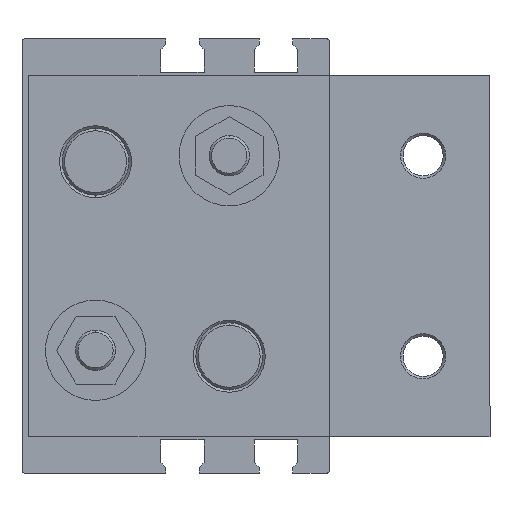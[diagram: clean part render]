
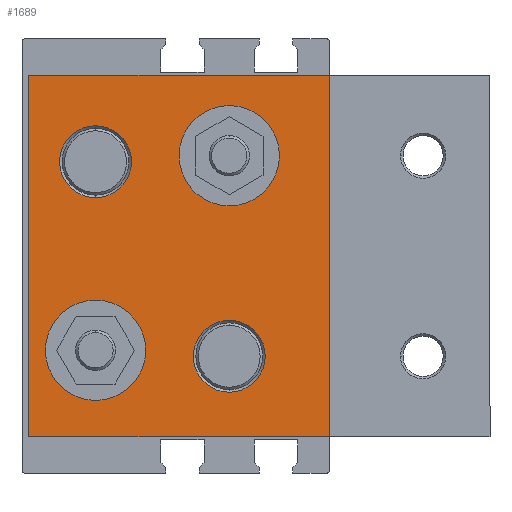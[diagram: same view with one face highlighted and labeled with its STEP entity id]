
A CAD part, left-side view. The second image highlights one B-rep face of the part: STEP entity #1689.
In plain terms, the highlighted planar face has unit normal (-1, 0, 0) as drawn and (1, 0, 0) by its records, which use the part's own axes.
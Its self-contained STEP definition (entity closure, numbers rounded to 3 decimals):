
#1 = CARTESIAN_POINT ( 'NONE',  ( 17., -2.5, 14.1 ) ) ;
#21 = CARTESIAN_POINT ( 'NONE',  ( 17., -10., -14.1 ) ) ;
#46 = PLANE ( 'NONE',  #3894 ) ;
#69 = VERTEX_POINT ( 'NONE', #565 ) ;
#75 = FACE_BOUND ( 'NONE', #4882, .T. ) ;
#243 = EDGE_CURVE ( 'NONE', #2447, #5246, #5983, .T. ) ;
#253 = FACE_BOUND ( 'NONE', #1438, .T. ) ;
#283 = AXIS2_PLACEMENT_3D ( 'NONE', #3981, #393, #4587 ) ;
#393 = DIRECTION ( 'NONE',  ( 1., 0., 0. ) ) ;
#485 = DIRECTION ( 'NONE',  ( 0., -1., 0. ) ) ;
#491 = DIRECTION ( 'NONE',  ( 1., 0., 0. ) ) ;
#565 = CARTESIAN_POINT ( 'NONE',  ( 17., -30., 20.375 ) ) ;
#568 = EDGE_CURVE ( 'NONE', #69, #5996, #5105, .T. ) ;
#600 = CARTESIAN_POINT ( 'NONE',  ( 17., 0., 27. ) ) ;
#631 = CIRCLE ( 'NONE', #7531, 7.5 ) ;
#638 = DIRECTION ( 'NONE',  ( 0., 0., -1. ) ) ;
#749 = CIRCLE ( 'NONE', #1897, 5.375 ) ;
#888 = CARTESIAN_POINT ( 'NONE',  ( 17., -17.5, 14.1 ) ) ;
#1332 = CARTESIAN_POINT ( 'NONE',  ( 17., -10., -8.725 ) ) ;
#1359 = ORIENTED_EDGE ( 'NONE', *, *, #3434, .F. ) ;
#1365 = ORIENTED_EDGE ( 'NONE', *, *, #7253, .T. ) ;
#1401 = CIRCLE ( 'NONE', #4505, 7.5 ) ;
#1438 = EDGE_LOOP ( 'NONE', ( #3140, #6264 ) ) ;
#1493 = FACE_BOUND ( 'NONE', #5262, .T. ) ;
#1524 = CARTESIAN_POINT ( 'NONE',  ( 17., -10., 14.1 ) ) ;
#1528 = EDGE_CURVE ( 'NONE', #5089, #5183, #3310, .T. ) ;
#1552 = CARTESIAN_POINT ( 'NONE',  ( 17., -30., 15. ) ) ;
#1627 = VERTEX_POINT ( 'NONE', #6791 ) ;
#1683 = CIRCLE ( 'NONE', #7827, 5.375 ) ;
#1689 = ADVANCED_FACE ( 'NONE', ( #1882, #253, #75, #3070, #1493 ), #46, .F. ) ;
#1752 = CARTESIAN_POINT ( 'NONE',  ( 17., -22.5, -15. ) ) ;
#1770 = ORIENTED_EDGE ( 'NONE', *, *, #2045, .F. ) ;
#1774 = CARTESIAN_POINT ( 'NONE',  ( 17., -30., 9.625 ) ) ;
#1841 = CARTESIAN_POINT ( 'NONE',  ( 17., -30., -15. ) ) ;
#1842 = DIRECTION ( 'NONE',  ( 0., -1., 0. ) ) ;
#1882 = FACE_OUTER_BOUND ( 'NONE', #5768, .T. ) ;
#1897 = AXIS2_PLACEMENT_3D ( 'NONE', #1552, #5756, #2173 ) ;
#2045 = EDGE_CURVE ( 'NONE', #2447, #4626, #7055, .T. ) ;
#2129 = DIRECTION ( 'NONE',  ( 0., 1., 0. ) ) ;
#2135 = ORIENTED_EDGE ( 'NONE', *, *, #4489, .T. ) ;
#2173 = DIRECTION ( 'NONE',  ( 0., 0., -1. ) ) ;
#2360 = CARTESIAN_POINT ( 'NONE',  ( 17., -10., 14.1 ) ) ;
#2447 = VERTEX_POINT ( 'NONE', #5872 ) ;
#2448 = DIRECTION ( 'NONE',  ( 0., 1., 0. ) ) ;
#2450 = CARTESIAN_POINT ( 'NONE',  ( 17., -30., -15. ) ) ;
#2933 = DIRECTION ( 'NONE',  ( 0., 1., 0. ) ) ;
#2954 = VECTOR ( 'NONE', #6508, 1000. ) ;
#2999 = DIRECTION ( 'NONE',  ( 1., 0., 0. ) ) ;
#3063 = DIRECTION ( 'NONE',  ( 0., 0., 1. ) ) ;
#3070 = FACE_BOUND ( 'NONE', #3299, .T. ) ;
#3140 = ORIENTED_EDGE ( 'NONE', *, *, #6802, .F. ) ;
#3158 = CARTESIAN_POINT ( 'NONE',  ( 17., -45., -27. ) ) ;
#3245 = AXIS2_PLACEMENT_3D ( 'NONE', #2450, #2999, #5990 ) ;
#3299 = EDGE_LOOP ( 'NONE', ( #5241, #5431 ) ) ;
#3310 = CIRCLE ( 'NONE', #3245, 7.5 ) ;
#3434 = EDGE_CURVE ( 'NONE', #6156, #5800, #7849, .T. ) ;
#3442 = CARTESIAN_POINT ( 'NONE',  ( 17., -37.5, -15. ) ) ;
#3453 = VECTOR ( 'NONE', #1842, 1000. ) ;
#3484 = DIRECTION ( 'NONE',  ( 0., 0., -1. ) ) ;
#3894 = AXIS2_PLACEMENT_3D ( 'NONE', #5457, #6693, #3063 ) ;
#3914 = CARTESIAN_POINT ( 'NONE',  ( 17., -45., 27. ) ) ;
#3981 = CARTESIAN_POINT ( 'NONE',  ( 17., -10., -14.1 ) ) ;
#4080 = CARTESIAN_POINT ( 'NONE',  ( 17., -30., 15. ) ) ;
#4180 = EDGE_CURVE ( 'NONE', #5996, #69, #749, .T. ) ;
#4220 = DIRECTION ( 'NONE',  ( 1., 0., 0. ) ) ;
#4385 = CARTESIAN_POINT ( 'NONE',  ( 17., 0., 27. ) ) ;
#4489 = EDGE_CURVE ( 'NONE', #5246, #1627, #5043, .T. ) ;
#4505 = AXIS2_PLACEMENT_3D ( 'NONE', #1841, #6044, #2448 ) ;
#4509 = DIRECTION ( 'NONE',  ( 0., 0., -1. ) ) ;
#4548 = CARTESIAN_POINT ( 'NONE',  ( 17., -10., -19.475 ) ) ;
#4587 = DIRECTION ( 'NONE',  ( 0., 0., -1. ) ) ;
#4626 = VERTEX_POINT ( 'NONE', #3158 ) ;
#4635 = ORIENTED_EDGE ( 'NONE', *, *, #1528, .F. ) ;
#4669 = ORIENTED_EDGE ( 'NONE', *, *, #7581, .F. ) ;
#4855 = VERTEX_POINT ( 'NONE', #888 ) ;
#4882 = EDGE_LOOP ( 'NONE', ( #5526, #4635 ) ) ;
#5043 = LINE ( 'NONE', #6651, #3453 ) ;
#5089 = VERTEX_POINT ( 'NONE', #3442 ) ;
#5105 = CIRCLE ( 'NONE', #5427, 5.375 ) ;
#5181 = EDGE_CURVE ( 'NONE', #4855, #6475, #6032, .T. ) ;
#5183 = VERTEX_POINT ( 'NONE', #1752 ) ;
#5241 = ORIENTED_EDGE ( 'NONE', *, *, #4180, .F. ) ;
#5246 = VERTEX_POINT ( 'NONE', #600 ) ;
#5262 = EDGE_LOOP ( 'NONE', ( #4669, #1359 ) ) ;
#5427 = AXIS2_PLACEMENT_3D ( 'NONE', #4080, #491, #3484 ) ;
#5431 = ORIENTED_EDGE ( 'NONE', *, *, #568, .F. ) ;
#5457 = CARTESIAN_POINT ( 'NONE',  ( 17., -45., 27. ) ) ;
#5524 = VECTOR ( 'NONE', #4509, 1000. ) ;
#5526 = ORIENTED_EDGE ( 'NONE', *, *, #6946, .F. ) ;
#5716 = DIRECTION ( 'NONE',  ( 1., 0., 0. ) ) ;
#5756 = DIRECTION ( 'NONE',  ( 1., 0., 0. ) ) ;
#5768 = EDGE_LOOP ( 'NONE', ( #7823, #2135, #1365, #1770 ) ) ;
#5800 = VERTEX_POINT ( 'NONE', #4548 ) ;
#5872 = CARTESIAN_POINT ( 'NONE',  ( 17., 0., -27. ) ) ;
#5983 = LINE ( 'NONE', #4385, #2954 ) ;
#5990 = DIRECTION ( 'NONE',  ( 0., 1., 0. ) ) ;
#5996 = VERTEX_POINT ( 'NONE', #1774 ) ;
#6032 = CIRCLE ( 'NONE', #6271, 7.5 ) ;
#6044 = DIRECTION ( 'NONE',  ( 1., 0., 0. ) ) ;
#6156 = VERTEX_POINT ( 'NONE', #1332 ) ;
#6264 = ORIENTED_EDGE ( 'NONE', *, *, #5181, .F. ) ;
#6271 = AXIS2_PLACEMENT_3D ( 'NONE', #2360, #6566, #2933 ) ;
#6475 = VERTEX_POINT ( 'NONE', #1 ) ;
#6508 = DIRECTION ( 'NONE',  ( 0., 0., 1. ) ) ;
#6566 = DIRECTION ( 'NONE',  ( 1., 0., 0. ) ) ;
#6651 = CARTESIAN_POINT ( 'NONE',  ( 17., 0., 27. ) ) ;
#6693 = DIRECTION ( 'NONE',  ( -1., 0., 0. ) ) ;
#6791 = CARTESIAN_POINT ( 'NONE',  ( 17., -45., 27. ) ) ;
#6802 = EDGE_CURVE ( 'NONE', #6475, #4855, #631, .T. ) ;
#6854 = VECTOR ( 'NONE', #485, 1000. ) ;
#6946 = EDGE_CURVE ( 'NONE', #5183, #5089, #1401, .T. ) ;
#7055 = LINE ( 'NONE', #7732, #6854 ) ;
#7253 = EDGE_CURVE ( 'NONE', #1627, #4626, #7542, .T. ) ;
#7531 = AXIS2_PLACEMENT_3D ( 'NONE', #1524, #5716, #2129 ) ;
#7542 = LINE ( 'NONE', #3914, #5524 ) ;
#7581 = EDGE_CURVE ( 'NONE', #5800, #6156, #1683, .T. ) ;
#7732 = CARTESIAN_POINT ( 'NONE',  ( 17., 0., -27. ) ) ;
#7823 = ORIENTED_EDGE ( 'NONE', *, *, #243, .T. ) ;
#7827 = AXIS2_PLACEMENT_3D ( 'NONE', #21, #4220, #638 ) ;
#7849 = CIRCLE ( 'NONE', #283, 5.375 ) ;
